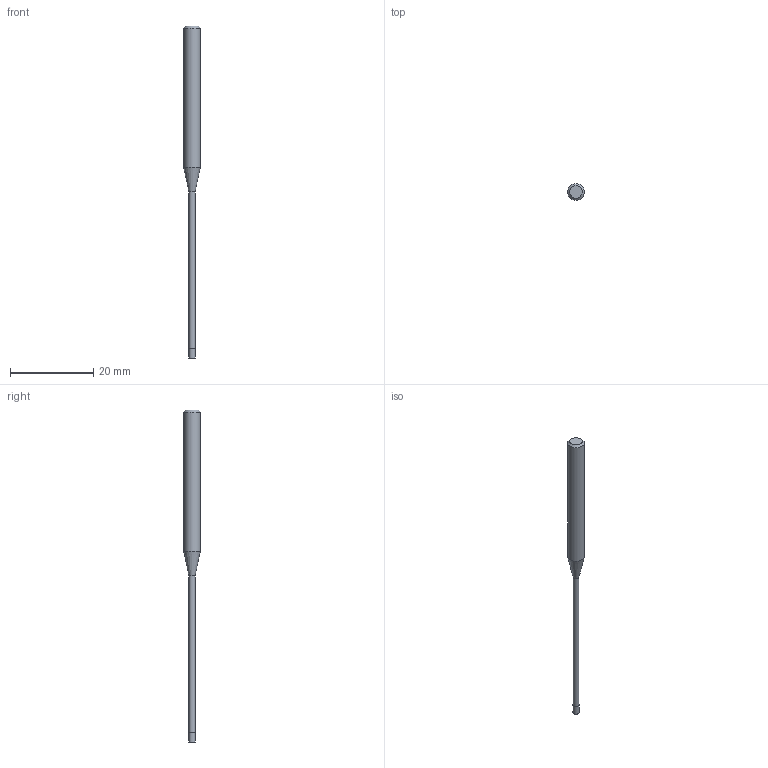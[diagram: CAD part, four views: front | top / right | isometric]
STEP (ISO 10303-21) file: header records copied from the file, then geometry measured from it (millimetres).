
FILE_DESCRIPTION((''),'2;1');
FILE_NAME('C:\Users\nsx150\AppData\Local\Temp\Mastercam 2021\17T8Q8S9EB\TEMP.step','2021-04-21T14:26:57',(''),(''),'STEP Write','Mastercam 2021 ... CNC Software, Inc.','');
FILE_SCHEMA(('AUTOMOTIVE_DESIGN'));
Length unit declared in the file: millimetre
Products named in the file (1): None
Bounding box: 4 x 4 x 80 mm (x, y, z)
Volume: 529.7 mm3; surface area: 676.1 mm2
Topology: 2 solids, 2 shells, 9 faces, 12 edges, 7 vertices
Faces by surface type: plane 4, cylinder 3, cone 2
Full cylindrical faces by diameter (mm): 1.45 x1, 1.5 x1, 4 x1
Entity records: 211 total; most frequent: DIRECTION 36, CARTESIAN_POINT 25, AXIS2_PLACEMENT_3D 18, ORIENTED_EDGE 14, EDGE_LOOP 14, STYLED_ITEM 12, ADVANCED_FACE 9, FACE_BOUND 8
